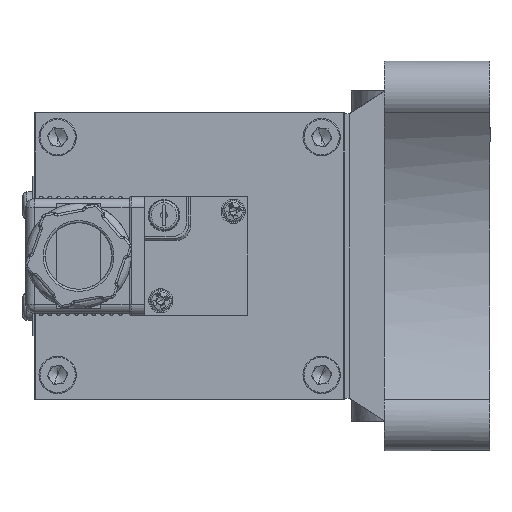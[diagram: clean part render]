
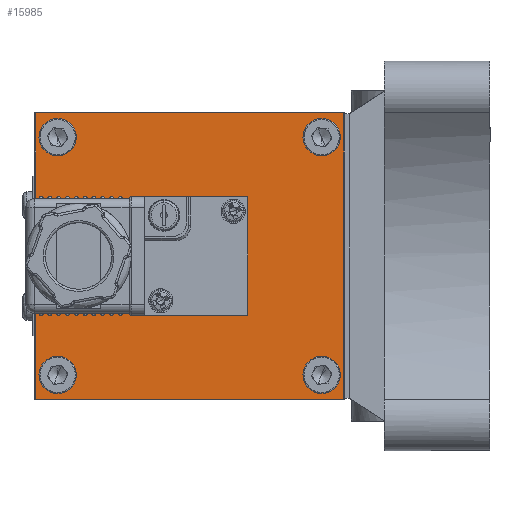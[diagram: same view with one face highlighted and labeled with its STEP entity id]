
A CAD part, left-side view. The second image highlights one B-rep face of the part: STEP entity #15985.
In plain terms, the highlighted planar face has unit normal (-1, 0, 0) as drawn and (0, 0, -1) by its records, which use the part's own axes.
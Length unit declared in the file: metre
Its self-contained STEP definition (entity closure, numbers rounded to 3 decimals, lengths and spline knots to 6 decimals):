
#261 = EDGE_CURVE ( 'NONE', #9333, #22766, #33800, .T. ) ;
#358 = AXIS2_PLACEMENT_3D ( 'NONE', #655, #18936, #3291 ) ;
#459 = LINE ( 'NONE', #18921, #15157 ) ;
#460 = ORIENTED_EDGE ( 'NONE', *, *, #27310, .F. ) ;
#589 = EDGE_LOOP ( 'NONE', ( #2187, #31090 ) ) ;
#655 = CARTESIAN_POINT ( 'NONE',  ( -0.027, 0.00625, 0. ) ) ;
#896 = FACE_BOUND ( 'NONE', #26877, .T. ) ;
#1134 = VERTEX_POINT ( 'NONE', #25224 ) ;
#1155 = LINE ( 'NONE', #7506, #15045 ) ;
#1634 = EDGE_CURVE ( 'NONE', #13745, #24671, #6744, .T. ) ;
#1649 = VERTEX_POINT ( 'NONE', #23203 ) ;
#1899 = DIRECTION ( 'NONE',  ( 1., 0., 0. ) ) ;
#1918 = DIRECTION ( 'NONE',  ( 0., 0., -1. ) ) ;
#2187 = ORIENTED_EDGE ( 'NONE', *, *, #1634, .F. ) ;
#2297 = ORIENTED_EDGE ( 'NONE', *, *, #27284, .F. ) ;
#2308 = DIRECTION ( 'NONE',  ( 1., 0., 0. ) ) ;
#2341 = AXIS2_PLACEMENT_3D ( 'NONE', #17564, #1918, #20189 ) ;
#2355 = CARTESIAN_POINT ( 'NONE',  ( 0.027, 0.00625, 0. ) ) ;
#2361 = ORIENTED_EDGE ( 'NONE', *, *, #19320, .F. ) ;
#2582 = CARTESIAN_POINT ( 'NONE',  ( -0.0295, 0.00625, 0. ) ) ;
#2988 = DIRECTION ( 'NONE',  ( 0., 0., -1. ) ) ;
#3291 = DIRECTION ( 'NONE',  ( 1., 0., 0. ) ) ;
#3556 = CARTESIAN_POINT ( 'NONE',  ( -0.0325, 0.00125, 0. ) ) ;
#3782 = CARTESIAN_POINT ( 'NONE',  ( -0.0325, 0.07125, 0. ) ) ;
#3845 = VERTEX_POINT ( 'NONE', #4978 ) ;
#4083 = AXIS2_PLACEMENT_3D ( 'NONE', #23374, #7725, #26042 ) ;
#4265 = EDGE_CURVE ( 'NONE', #3845, #17298, #20917, .T. ) ;
#4616 = EDGE_CURVE ( 'NONE', #26134, #20501, #459, .T. ) ;
#4675 = CARTESIAN_POINT ( 'NONE',  ( 0.0325, 0.03625, 0. ) ) ;
#4737 = ORIENTED_EDGE ( 'NONE', *, *, #28896, .F. ) ;
#4925 = CARTESIAN_POINT ( 'NONE',  ( -0.027, 0.06625, 0. ) ) ;
#4978 = CARTESIAN_POINT ( 'NONE',  ( -0.0245, 0.00625, 0. ) ) ;
#4981 = DIRECTION ( 'NONE',  ( 1., 0., 0. ) ) ;
#5019 = FACE_BOUND ( 'NONE', #589, .T. ) ;
#5307 = EDGE_CURVE ( 'NONE', #22766, #9333, #10669, .T. ) ;
#5836 = EDGE_CURVE ( 'NONE', #24671, #13745, #20853, .T. ) ;
#5916 = DIRECTION ( 'NONE',  ( 0., -1., 0. ) ) ;
#6744 = CIRCLE ( 'NONE', #20435, 0.0025 ) ;
#7110 = LINE ( 'NONE', #28535, #33262 ) ;
#7506 = CARTESIAN_POINT ( 'NONE',  ( 0., 0.00125, 0. ) ) ;
#7725 = DIRECTION ( 'NONE',  ( 0., 0., -1. ) ) ;
#7866 = FACE_BOUND ( 'NONE', #19499, .T. ) ;
#8116 = CIRCLE ( 'NONE', #28125, 0.0025 ) ;
#8796 = PLANE ( 'NONE',  #21769 ) ;
#9333 = VERTEX_POINT ( 'NONE', #26882 ) ;
#9862 = CARTESIAN_POINT ( 'NONE',  ( -0.0245, 0.06625, 0. ) ) ;
#10403 = CARTESIAN_POINT ( 'NONE',  ( -0.0325, 0.00125, 0. ) ) ;
#10669 = CIRCLE ( 'NONE', #32756, 0.0025 ) ;
#10745 = CARTESIAN_POINT ( 'NONE',  ( 0.0325, 0.07125, 0. ) ) ;
#11414 = DIRECTION ( 'NONE',  ( 1., 0., 0. ) ) ;
#12178 = ORIENTED_EDGE ( 'NONE', *, *, #14611, .F. ) ;
#12850 = CARTESIAN_POINT ( 'NONE',  ( 0.027, 0.06625, 0. ) ) ;
#13193 = ORIENTED_EDGE ( 'NONE', *, *, #4265, .F. ) ;
#13253 = DIRECTION ( 'NONE',  ( 0., 0., -1. ) ) ;
#13745 = VERTEX_POINT ( 'NONE', #9862 ) ;
#14611 = EDGE_CURVE ( 'NONE', #32875, #26134, #7110, .T. ) ;
#14784 = FACE_OUTER_BOUND ( 'NONE', #29463, .T. ) ;
#15045 = VECTOR ( 'NONE', #1899, 1. ) ;
#15157 = VECTOR ( 'NONE', #5916, 1. ) ;
#15470 = DIRECTION ( 'NONE',  ( 1., 0., 0. ) ) ;
#15985 = ADVANCED_FACE ( 'NONE', ( #5019, #22568, #7866, #896, #14784 ), #8796, .F. ) ;
#17298 = VERTEX_POINT ( 'NONE', #2582 ) ;
#17564 = CARTESIAN_POINT ( 'NONE',  ( -0.027, 0.00625, 0. ) ) ;
#18461 = EDGE_CURVE ( 'NONE', #1649, #32875, #21959, .T. ) ;
#18921 = CARTESIAN_POINT ( 'NONE',  ( -0.0325, 0.03625, 0. ) ) ;
#18936 = DIRECTION ( 'NONE',  ( 0., 0., -1. ) ) ;
#19320 = EDGE_CURVE ( 'NONE', #1134, #27479, #33392, .T. ) ;
#19499 = EDGE_LOOP ( 'NONE', ( #13193, #4737 ) ) ;
#20189 = DIRECTION ( 'NONE',  ( 1., 0., 0. ) ) ;
#20316 = DIRECTION ( 'NONE',  ( 0., 1., 0. ) ) ;
#20435 = AXIS2_PLACEMENT_3D ( 'NONE', #4925, #20553, #2308 ) ;
#20501 = VERTEX_POINT ( 'NONE', #10403 ) ;
#20518 = ORIENTED_EDGE ( 'NONE', *, *, #18461, .F. ) ;
#20553 = DIRECTION ( 'NONE',  ( 0., 0., -1. ) ) ;
#20614 = DIRECTION ( 'NONE',  ( 0., 0., -1. ) ) ;
#20853 = CIRCLE ( 'NONE', #26229, 0.0025 ) ;
#20917 = CIRCLE ( 'NONE', #2341, 0.0025 ) ;
#21247 = CARTESIAN_POINT ( 'NONE',  ( 0.027, 0.00625, 0. ) ) ;
#21769 = AXIS2_PLACEMENT_3D ( 'NONE', #3556, #27083, #11414 ) ;
#21959 = LINE ( 'NONE', #4675, #28933 ) ;
#22305 = ORIENTED_EDGE ( 'NONE', *, *, #5307, .F. ) ;
#22568 = FACE_BOUND ( 'NONE', #33388, .T. ) ;
#22766 = VERTEX_POINT ( 'NONE', #26956 ) ;
#23203 = CARTESIAN_POINT ( 'NONE',  ( 0.0325, 0.00125, 0. ) ) ;
#23374 = CARTESIAN_POINT ( 'NONE',  ( 0.027, 0.06625, 0. ) ) ;
#24066 = CARTESIAN_POINT ( 'NONE',  ( 0.0295, 0.06625, 0. ) ) ;
#24671 = VERTEX_POINT ( 'NONE', #29139 ) ;
#25224 = CARTESIAN_POINT ( 'NONE',  ( 0.0245, 0.06625, 0. ) ) ;
#26042 = DIRECTION ( 'NONE',  ( 1., 0., 0. ) ) ;
#26134 = VERTEX_POINT ( 'NONE', #3782 ) ;
#26229 = AXIS2_PLACEMENT_3D ( 'NONE', #28925, #13253, #31544 ) ;
#26877 = EDGE_LOOP ( 'NONE', ( #28676, #22305 ) ) ;
#26882 = CARTESIAN_POINT ( 'NONE',  ( 0.0295, 0.00625, 0. ) ) ;
#26956 = CARTESIAN_POINT ( 'NONE',  ( 0.0245, 0.00625, 0. ) ) ;
#27083 = DIRECTION ( 'NONE',  ( 0., 0., 1. ) ) ;
#27284 = EDGE_CURVE ( 'NONE', #20501, #1649, #1155, .T. ) ;
#27310 = EDGE_CURVE ( 'NONE', #27479, #1134, #8116, .T. ) ;
#27479 = VERTEX_POINT ( 'NONE', #24066 ) ;
#28125 = AXIS2_PLACEMENT_3D ( 'NONE', #12850, #31149, #15470 ) ;
#28535 = CARTESIAN_POINT ( 'NONE',  ( 0., 0.07125, 0. ) ) ;
#28676 = ORIENTED_EDGE ( 'NONE', *, *, #261, .F. ) ;
#28896 = EDGE_CURVE ( 'NONE', #17298, #3845, #29471, .T. ) ;
#28918 = DIRECTION ( 'NONE',  ( 1., 0., 0. ) ) ;
#28925 = CARTESIAN_POINT ( 'NONE',  ( -0.027, 0.06625, 0. ) ) ;
#28933 = VECTOR ( 'NONE', #20316, 1. ) ;
#29139 = CARTESIAN_POINT ( 'NONE',  ( -0.0295, 0.06625, 0. ) ) ;
#29463 = EDGE_LOOP ( 'NONE', ( #33410, #12178, #20518, #2297 ) ) ;
#29471 = CIRCLE ( 'NONE', #358, 0.0025 ) ;
#30241 = AXIS2_PLACEMENT_3D ( 'NONE', #21247, #2988, #28918 ) ;
#31090 = ORIENTED_EDGE ( 'NONE', *, *, #5836, .F. ) ;
#31149 = DIRECTION ( 'NONE',  ( 0., 0., -1. ) ) ;
#31168 = DIRECTION ( 'NONE',  ( -1., 0., 0. ) ) ;
#31544 = DIRECTION ( 'NONE',  ( 1., 0., 0. ) ) ;
#32756 = AXIS2_PLACEMENT_3D ( 'NONE', #2355, #20614, #4981 ) ;
#32875 = VERTEX_POINT ( 'NONE', #10745 ) ;
#33262 = VECTOR ( 'NONE', #31168, 1. ) ;
#33388 = EDGE_LOOP ( 'NONE', ( #460, #2361 ) ) ;
#33392 = CIRCLE ( 'NONE', #4083, 0.0025 ) ;
#33410 = ORIENTED_EDGE ( 'NONE', *, *, #4616, .F. ) ;
#33800 = CIRCLE ( 'NONE', #30241, 0.0025 ) ;
